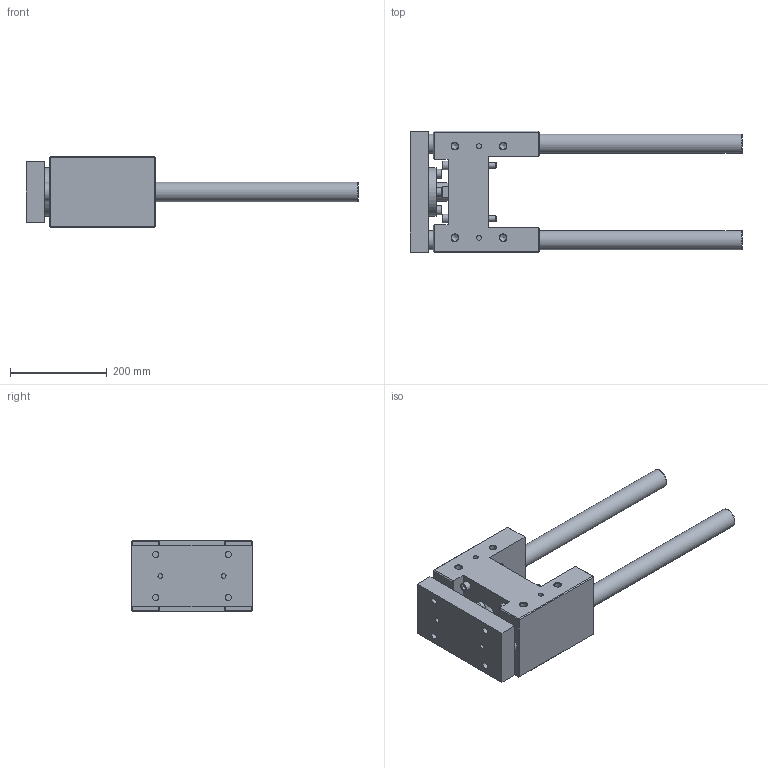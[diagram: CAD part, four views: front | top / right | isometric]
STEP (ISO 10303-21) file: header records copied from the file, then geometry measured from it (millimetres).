
FILE_DESCRIPTION( ( 'STEP AP214' ), '1' );
FILE_NAME( 'U:/Etudes/Top Solid/BIBLIO 3D AVM/TOP/PNEUMATIQUE/GUIDAGES/Type 32 (en H)/S_Lourde/320S7130.step', '2005-05-27T09:31:49', ( ' ' ), ( ' ' ), 'XStep 1.0', ' ', ' ' );
FILE_SCHEMA( ( 'automotive_design' ) );
Length unit declared in the file: metre
Products named in the file (2): 1; 2
Bounding box: 688 x 252 x 148 mm (x, y, z)
Volume: 7338857.1 mm3; surface area: 638925.5 mm2
Topology: 2 solids, 7 shells, 238 faces, 524 edges, 339 vertices
Faces by surface type: plane 149, cylinder 68, cone 21
Full cylindrical faces by diameter (mm): 10 x4, 10.106 x4, 12 x16, 13 x12, 13.835 x8, 18 x8, 20 x4, 24.835 x1, 39 x1, 40 x4, 42 x1, 57 x1, 60 x2, 65 x1, 100 x1
Entity records: 7905 total; most frequent: CARTESIAN_POINT 1198, DIRECTION 996, ORIENTED_EDGE 784, EDGE_CURVE 392, EDGE_LOOP 390, AXIS2_PLACEMENT_3D 372, FACE_OUTER_BOUND 306, VERTEX_POINT 302
